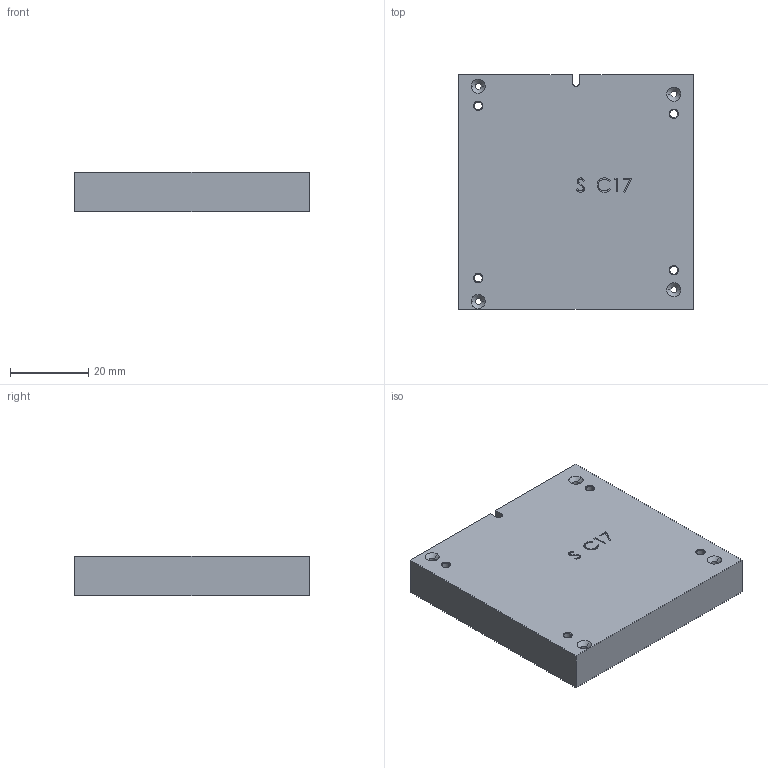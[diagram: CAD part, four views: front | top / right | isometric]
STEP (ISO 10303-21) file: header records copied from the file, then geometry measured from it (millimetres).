
FILE_DESCRIPTION (( 'STEP AP214' ), '1' );
FILE_NAME ('C17_N.STEP', '2016-02-27T13:09:20', ( '' ), ( '' ), 'SwSTEP 2.0', 'SolidWorks 2012', '' );
FILE_SCHEMA (( 'AUTOMOTIVE_DESIGN' ));
Length unit declared in the file: millimetre
Products named in the file (1): C17_N
Bounding box: 60 x 60 x 10 mm (x, y, z)
Volume: 35721 mm3; surface area: 10047.7 mm2
Topology: 1 solids, 1 shells, 103 faces, 259 edges, 162 vertices
Faces by surface type: cone 32, plane 29, bspline 24, cylinder 18
Entity records: 4295 total; most frequent: CARTESIAN_POINT 1877, ORIENTED_EDGE 518, DIRECTION 439, EDGE_CURVE 259, VERTEX_POINT 162, AXIS2_PLACEMENT_3D 148, LINE 143, VECTOR 143
